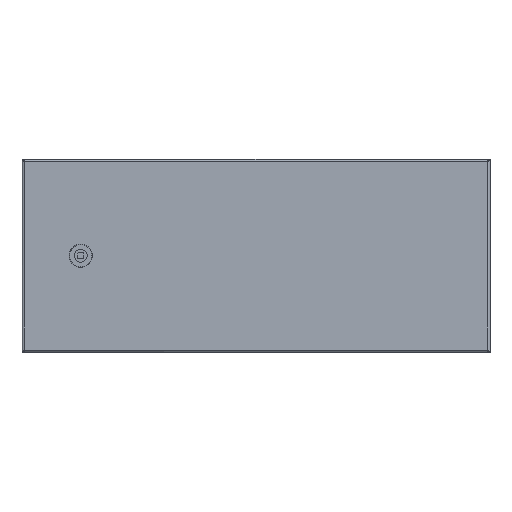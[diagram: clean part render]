
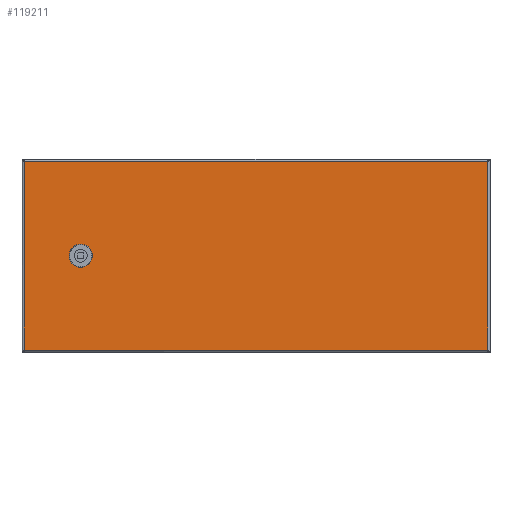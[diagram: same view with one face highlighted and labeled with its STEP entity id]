
A CAD part, top view. The second image highlights one B-rep face of the part: STEP entity #119211.
In plain terms, the highlighted planar face has unit normal (0, 0, 1).
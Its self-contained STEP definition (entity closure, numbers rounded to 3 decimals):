
#116896=CARTESIAN_POINT(' ',(591.2,242.2,0.));
#116901=DIRECTION(' ',(-1.,0.,0.));
#116906=VECTOR(' ',#116901,1.);
#116911=LINE('',#116896,#116906);
#116916=CARTESIAN_POINT(' ',(591.2,242.2,0.));
#116917=VERTEX_POINT(' ',#116916);
#116921=CARTESIAN_POINT(' ',(2.8,242.2,0.));
#116922=VERTEX_POINT(' ',#116921);
#116926=EDGE_CURVE(' ',#116917,#116922,#116911,.T.);
#119071=DIRECTION(' ',(-0.,-0.,1.));
#119076=CARTESIAN_POINT(' ',(591.2,2.8,0.));
#119081=DIRECTION(' ',(0.,1.,0.));
#119086=AXIS2_PLACEMENT_3D(' ',#119076,#119071,#119081);
#119091=PLANE('NONE',#119086);
#119096=CARTESIAN_POINT(' ',(2.8,2.8,0.));
#119101=DIRECTION(' ',(1.,0.,0.));
#119106=VECTOR(' ',#119101,1.);
#119111=LINE('',#119096,#119106);
#119116=CARTESIAN_POINT(' ',(2.8,2.8,0.));
#119117=VERTEX_POINT(' ',#119116);
#119121=CARTESIAN_POINT(' ',(591.2,2.8,0.));
#119122=VERTEX_POINT(' ',#119121);
#119126=EDGE_CURVE(' ',#119117,#119122,#119111,.T.);
#119131=ORIENTED_EDGE(' ',*,*,#119126,.T.);
#119136=CARTESIAN_POINT(' ',(591.2,242.2,0.));
#119141=DIRECTION(' ',(0.,-1.,0.));
#119146=VECTOR(' ',#119141,1.);
#119151=LINE('',#119136,#119146);
#119156=EDGE_CURVE(' ',#116917,#119122,#119151,.T.);
#119161=ORIENTED_EDGE(' ',*,*,#119156,.F.);
#119166=ORIENTED_EDGE(' ',*,*,#116926,.T.);
#119171=CARTESIAN_POINT(' ',(2.8,242.2,0.));
#119176=DIRECTION(' ',(0.,-1.,0.));
#119181=VECTOR(' ',#119176,1.);
#119186=LINE('',#119171,#119181);
#119191=EDGE_CURVE(' ',#116922,#119117,#119186,.T.);
#119196=ORIENTED_EDGE(' ',*,*,#119191,.T.);
#119201=EDGE_LOOP(' ',(#119131,#119161,#119166,#119196));
#119206=FACE_OUTER_BOUND(' ',#119201,.T.);
#119211=ADVANCED_FACE('NONE',(#119206),#119091,.T.);
